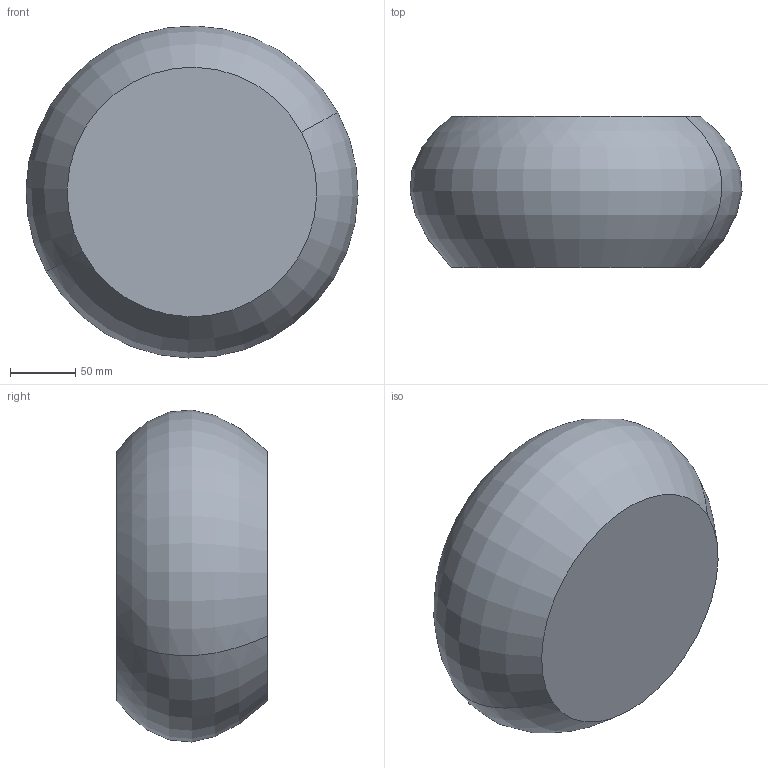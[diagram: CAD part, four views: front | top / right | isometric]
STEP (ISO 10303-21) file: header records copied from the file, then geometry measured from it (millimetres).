
FILE_DESCRIPTION(('CATIA V5 STEP Exchange'),'2;1');
FILE_NAME('C:\_Andres\UNIVERSIDAD\IQS\ASIGNATURAS\DAO\EXF\EXF-15161c\1original\Esteva_Esteve_Ej10-decora_v6.stp','2016-03-04T22:24:12+00:00',('none'),('none'),'CATIA Version 5 Release 20 SP 1 (IN-10)','CATIA V5 STEP AP203','none');
FILE_SCHEMA(('CONFIG_CONTROL_DESIGN'));
Length unit declared in the file: millimetre
Products named in the file (1): Esteva_Esteve_Ej10-decora_v6
Bounding box: 255.32 x 116 x 255.32 mm (x, y, z)
Volume: 5041128.6 mm3; surface area: 157341.4 mm2
Topology: 1 solids, 1 shells, 4 faces, 6 edges, 4 vertices
Faces by surface type: revolution 2, plane 2
Entity records: 166 total; most frequent: CARTESIAN_POINT 50, DIRECTION 12, ORIENTED_EDGE 12, AXIS2_PLACEMENT_3D 8, EDGE_CURVE 6, ADVANCED_FACE 4, B_SPLINE_CURVE_WITH_KNOTS 4, CC_DESIGN_PERSON_AND_ORGANIZATION_ASSIGNMENT 4
